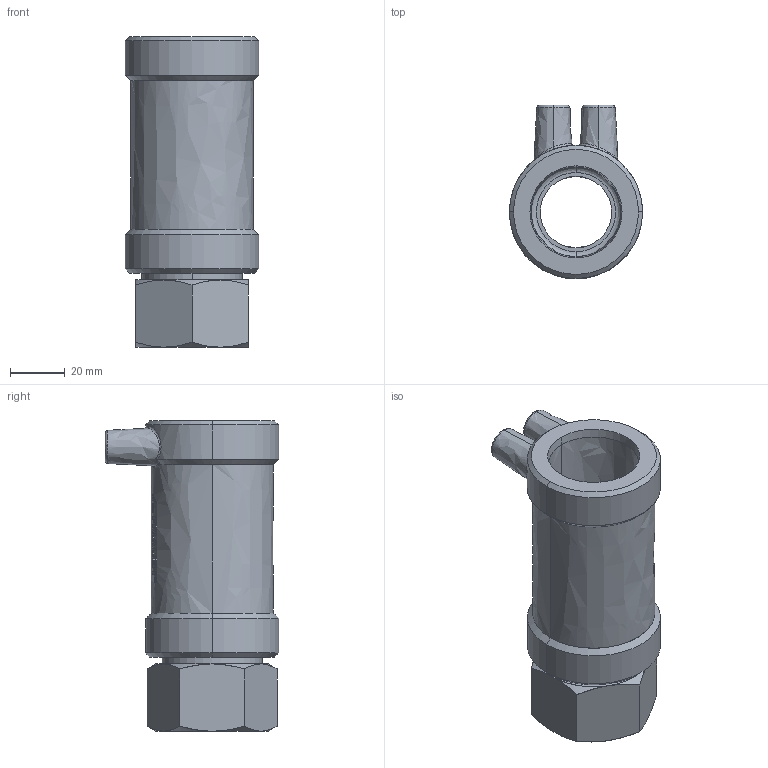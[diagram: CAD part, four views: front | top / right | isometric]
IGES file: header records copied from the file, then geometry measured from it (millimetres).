
Start section:  PTC IGES file: ustm_d32_1_01.igs
Global section: file name: ustm_d32_1_01.igs; native system: Pro/ENGINEER by Parametric Technology Corporation; preprocessor: 2011490; author: mtunjic; organization: Unknown; date: 20130823.113930; units: millimetre
Bounding box: 48.5 x 63.15 x 112.98 mm (x, y, z)
Surface area: 33370.7 mm2 (no closed solid volume)
Topology: 0 solids, 0 shells, 222 faces, 1126 edges, 1126 vertices
Faces by surface type: bspline 222
